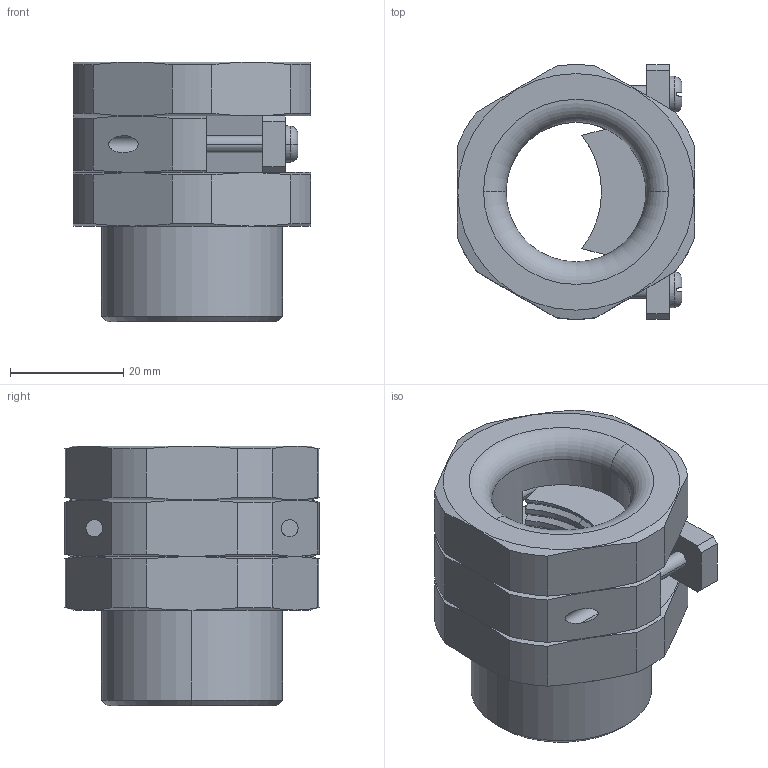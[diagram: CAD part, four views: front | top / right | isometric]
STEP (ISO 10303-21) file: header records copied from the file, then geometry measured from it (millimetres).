
FILE_DESCRIPTION (( 'STEP AP203' ), '1' );
FILE_NAME ('29.3215.STEP', '2006-08-15T12:02:01', ( ' ' ), ( '' ), 'SwSTEP 2.0', 'SolidWorks 2005278', '' );
FILE_SCHEMA (( 'CONFIG_CONTROL_DESIGN' ));
Length unit declared in the file: millimetre
Products named in the file (1): 29.3215
Bounding box: 42 x 45 x 45.9 mm (x, y, z)
Volume: 33618.3 mm3; surface area: 13188 mm2
Topology: 1 solids, 1 shells, 204 faces, 561 edges, 363 vertices
Faces by surface type: plane 109, cylinder 48, cone 41, torus 6
Entity records: 6721 total; most frequent: CARTESIAN_POINT 1464, ORIENTED_EDGE 1122, DIRECTION 1050, EDGE_CURVE 561, AXIS2_PLACEMENT_3D 371, VERTEX_POINT 363, VECTOR 308, LINE 308
